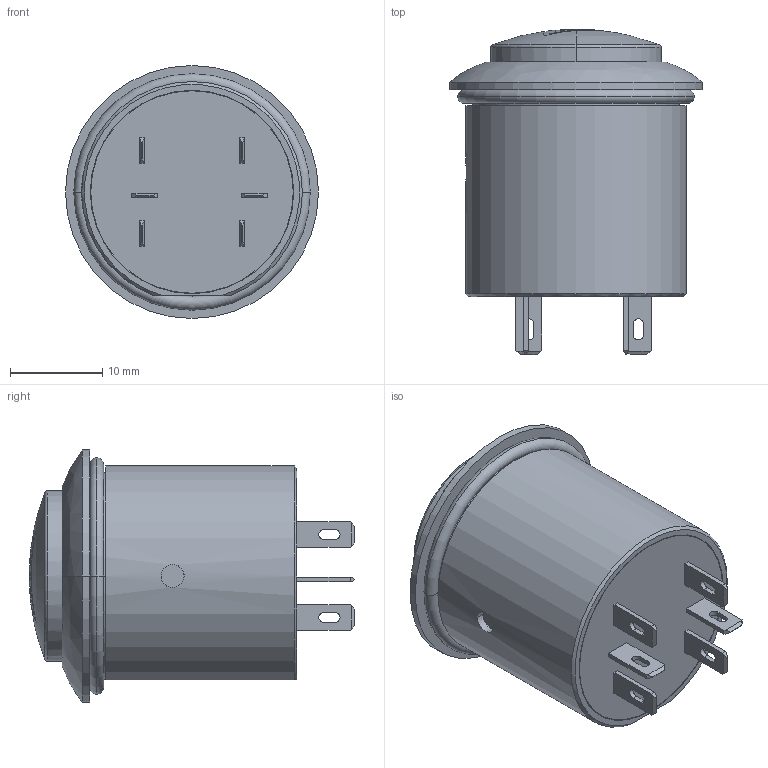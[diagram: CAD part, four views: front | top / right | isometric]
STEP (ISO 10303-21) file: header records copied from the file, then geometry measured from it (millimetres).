
FILE_DESCRIPTION((''),'2;1');
FILE_NAME('FPAR1D1462C1113','2012-06-13T',('jfgibert'),(''),'PRO/ENGINEER BY PARAMETRIC TECHNOLOGY CORPORATION, 2011250','PRO/ENGINEER BY PARAMETRIC TECHNOLOGY CORPORATION, 2011250','');
FILE_SCHEMA(('CONFIG_CONTROL_DESIGN'));
Length unit declared in the file: millimetre
Products named in the file (1): FPAR1D1462C1113
Bounding box: 27.5 x 35.37 x 27.5 mm (x, y, z)
Volume: 4043.7 mm3; surface area: 7824.6 mm2
Topology: 2 solids, 2 shells, 324 faces, 890 edges, 584 vertices
Faces by surface type: plane 213, cylinder 78, sphere 16, torus 9, cone 5, bspline 3
Entity records: 10607 total; most frequent: CARTESIAN_POINT 2145, DIRECTION 1769, ORIENTED_EDGE 1764, EDGE_CURVE 882, AXIS2_PLACEMENT_3D 601, VERTEX_POINT 584, VECTOR 567, LINE 567
